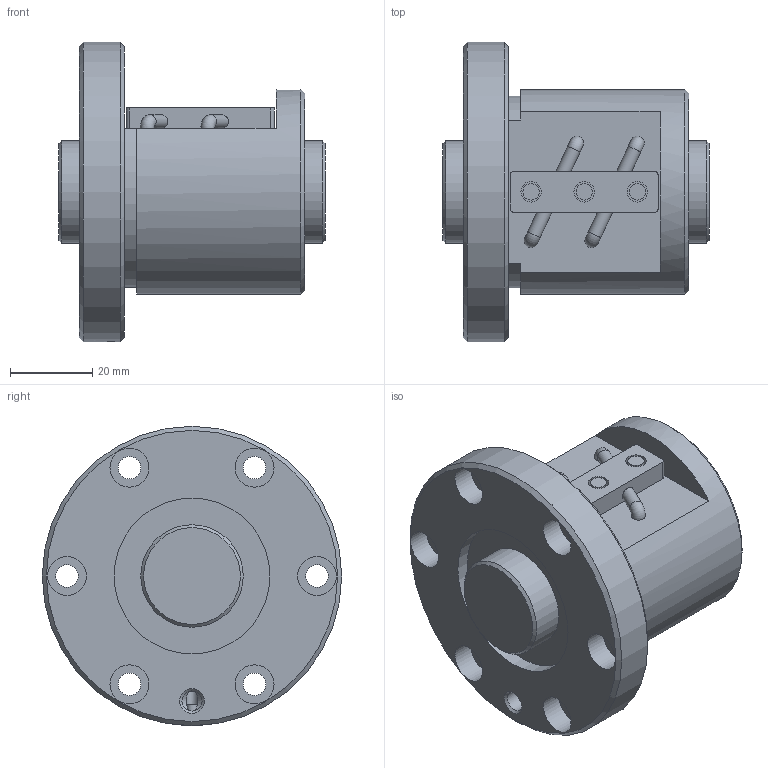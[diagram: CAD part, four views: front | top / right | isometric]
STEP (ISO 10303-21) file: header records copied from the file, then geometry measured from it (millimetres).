
FILE_DESCRIPTION(/* description */ ('STEP AP203'),/* implementation_level */ '2;1');
FILE_NAME(/* name */ 'BNF2505V-5RRG1+65LC0_000_rev',/* time_stamp */ '2024-08-06T07:29:12+02:00',/* author */ ('License CC BY-ND 4.0'),/* organization */ ('CADENAS'),/* preprocessor_version */ 'ST-DEVELOPER v19.3',/* originating_system */ 'PARTsolutions',/* authorisation */ ' ');
FILE_SCHEMA (('CONFIG_CONTROL_DESIGN'));
Length unit declared in the file: millimetre
Products named in the file (3): BNF2505V-5RRG1+65LC0_000_rev; BNF 2505-5RR000 Shaft; BNF 2505-5RR Nut
Assembly tree (2 placements, depth 2):
  BNF2505V-5RRG1+65LC0_000_rev
    BNF 2505-5RR000 Shaft
    BNF 2505-5RR Nut
Bounding box: 65 x 73 x 73 mm (x, y, z)
Volume: 121295.6 mm3; surface area: 30163 mm2
Topology: 2 solids, 2 shells, 78 faces, 172 edges, 113 vertices
Faces by surface type: cylinder 37, plane 29, cone 8, torus 4
Full cylindrical faces by diameter (mm): 2.75 x2, 3.331 x4, 4 x3, 4.917 x1, 5 x3, 5.5 x6, 9.5 x6, 25 x2, 38 x2, 50 x1, 73 x1
Entity records: 1991 total; most frequent: DIRECTION 352, CARTESIAN_POINT 341, ORIENTED_EDGE 230, AXIS2_PLACEMENT_3D 164, EDGE_LOOP 160, FACE_BOUND 160, EDGE_CURVE 115, VERTEX_POINT 99
